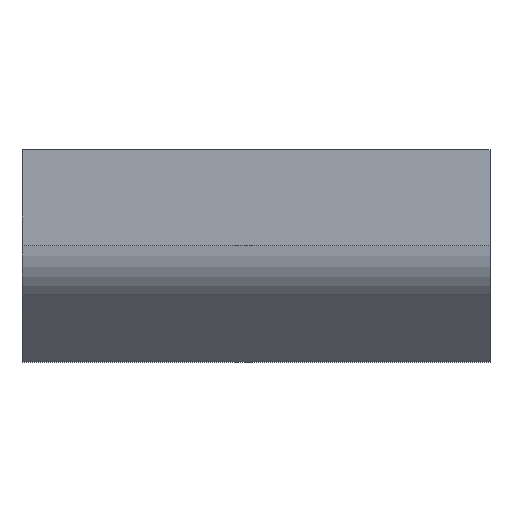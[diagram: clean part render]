
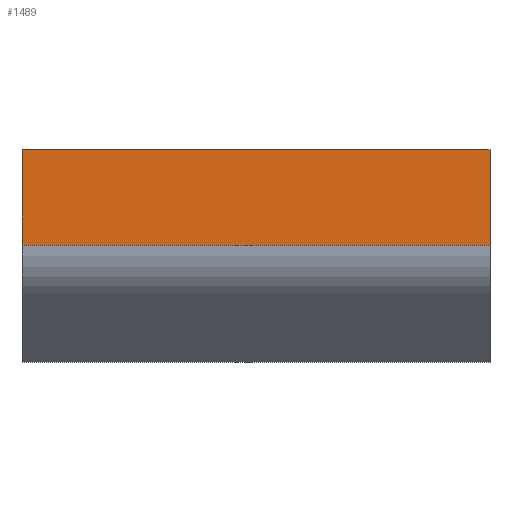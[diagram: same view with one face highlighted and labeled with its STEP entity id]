
A CAD part, front view. The second image highlights one B-rep face of the part: STEP entity #1489.
In plain terms, the highlighted planar face has unit normal (0, -1, 0).
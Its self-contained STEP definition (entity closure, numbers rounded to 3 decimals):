
#20 = DIRECTION ( 'NONE',  ( 0., 1., 0. ) ) ;
#91 = VECTOR ( 'NONE', #1550, 1000. ) ;
#92 = VERTEX_POINT ( 'NONE', #743 ) ;
#122 = EDGE_CURVE ( 'NONE', #477, #92, #913, .T. ) ;
#159 = DIRECTION ( 'NONE',  ( 0., 0., -1. ) ) ;
#167 = VECTOR ( 'NONE', #1418, 1000. ) ;
#254 = VECTOR ( 'NONE', #159, 1000. ) ;
#267 = CARTESIAN_POINT ( 'NONE',  ( 250., -100., 0. ) ) ;
#291 = CARTESIAN_POINT ( 'NONE',  ( 250., -100., -102.132 ) ) ;
#302 = CARTESIAN_POINT ( 'NONE',  ( -250., -100., -102.132 ) ) ;
#344 = ORIENTED_EDGE ( 'NONE', *, *, #658, .F. ) ;
#469 = EDGE_LOOP ( 'NONE', ( #1221, #605, #344, #831 ) ) ;
#473 = CARTESIAN_POINT ( 'NONE',  ( 250., -100., 0. ) ) ;
#477 = VERTEX_POINT ( 'NONE', #473 ) ;
#561 = AXIS2_PLACEMENT_3D ( 'NONE', #291, #20, #1181 ) ;
#605 = ORIENTED_EDGE ( 'NONE', *, *, #963, .F. ) ;
#658 = EDGE_CURVE ( 'NONE', #477, #1662, #1345, .T. ) ;
#684 = EDGE_CURVE ( 'NONE', #92, #1091, #961, .T. ) ;
#743 = CARTESIAN_POINT ( 'NONE',  ( -250., -100., 0. ) ) ;
#791 = FACE_OUTER_BOUND ( 'NONE', #469, .T. ) ;
#831 = ORIENTED_EDGE ( 'NONE', *, *, #122, .T. ) ;
#913 = LINE ( 'NONE', #267, #167 ) ;
#961 = LINE ( 'NONE', #302, #254 ) ;
#963 = EDGE_CURVE ( 'NONE', #1662, #1091, #1036, .T. ) ;
#964 = VECTOR ( 'NONE', #1225, 1000. ) ;
#1036 = LINE ( 'NONE', #1569, #91 ) ;
#1091 = VERTEX_POINT ( 'NONE', #1328 ) ;
#1181 = DIRECTION ( 'NONE',  ( 0., 0., 1. ) ) ;
#1190 = PLANE ( 'NONE',  #561 ) ;
#1221 = ORIENTED_EDGE ( 'NONE', *, *, #684, .T. ) ;
#1225 = DIRECTION ( 'NONE',  ( 0., 0., -1. ) ) ;
#1328 = CARTESIAN_POINT ( 'NONE',  ( -250., -100., -102.132 ) ) ;
#1345 = LINE ( 'NONE', #1600, #964 ) ;
#1349 = CARTESIAN_POINT ( 'NONE',  ( 250., -100., -102.132 ) ) ;
#1418 = DIRECTION ( 'NONE',  ( -1., 0., 0. ) ) ;
#1489 = ADVANCED_FACE ( 'NONE', ( #791 ), #1190, .F. ) ;
#1550 = DIRECTION ( 'NONE',  ( -1., 0., 0. ) ) ;
#1569 = CARTESIAN_POINT ( 'NONE',  ( 250., -100., -102.132 ) ) ;
#1600 = CARTESIAN_POINT ( 'NONE',  ( 250., -100., -102.132 ) ) ;
#1662 = VERTEX_POINT ( 'NONE', #1349 ) ;
